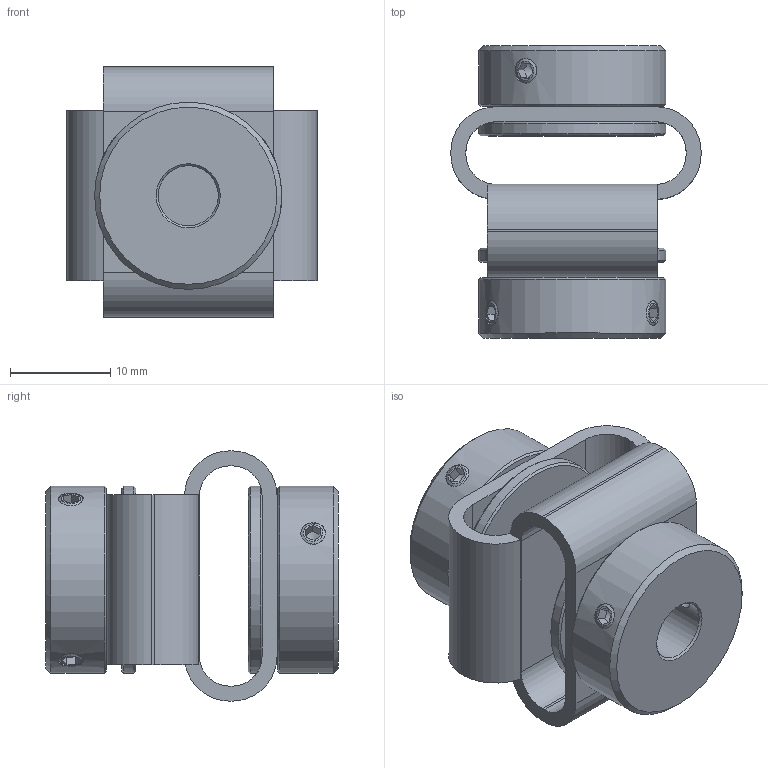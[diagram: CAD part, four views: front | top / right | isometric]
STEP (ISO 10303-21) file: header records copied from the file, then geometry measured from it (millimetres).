
FILE_DESCRIPTION(/* description */ (''),/* implementation_level */ '2;1');
FILE_NAME(/* name */ 'Z:\ABP-Antriebstechnik\Entwicklung-3D\Paguflex\DKPS 2928 06 08.stp',/* time_stamp */ '2017-06-30T08:13:25+02:00',/* author */ ('werner.boesinger'),/* organization */ (''),/* preprocessor_version */ 'ST-DEVELOPER v16.1',/* originating_system */ 'Autodesk Inventor 2016',/* authorisation */ '');
FILE_SCHEMA (('AUTOMOTIVE_DESIGN { 1 0 10303 214 3 1 1 }'));
Length unit declared in the file: millimetre
Products named in the file (1): DKPS 2928 06 08
Bounding box: 25 x 29.2 x 25 mm (x, y, z)
Volume: 5702.9 mm3; surface area: 5419.5 mm2
Topology: 1 solids, 3 shells, 154 faces, 366 edges, 226 vertices
Faces by surface type: plane 90, cylinder 36, cone 28
Full cylindrical faces by diameter (mm): 2.459 x8, 6 x1, 8 x1, 12.5 x2, 14 x4, 18.7 x4
Entity records: 4367 total; most frequent: CARTESIAN_POINT 961, DIRECTION 694, ORIENTED_EDGE 572, EDGE_CURVE 286, AXIS2_PLACEMENT_3D 273, EDGE_LOOP 220, VERTEX_POINT 192, STYLED_ITEM 155
